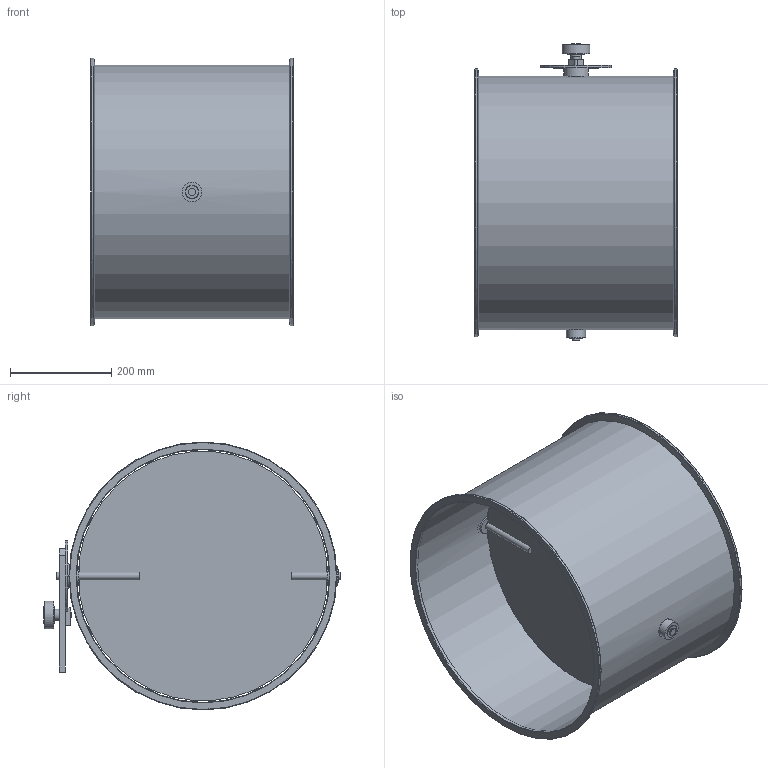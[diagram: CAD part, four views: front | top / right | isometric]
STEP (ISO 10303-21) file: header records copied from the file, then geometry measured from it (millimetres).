
FILE_DESCRIPTION(/* description */ (''),/* implementation_level */ '2;1');
FILE_NAME(/* name */ 'METU_Drosselklappe_Flansch_verzinkt_EA110-80B__500_L400_handbetaetigt.stp',/* time_stamp */ '2022-04-22T14:04:52+02:00',/* author */ (''),/* organization */ (''),/* preprocessor_version */ 'ST-DEVELOPER v11',/* originating_system */ 'SIEMENS UGS NX 6.0',/* authorisation */ '');
FILE_SCHEMA (('CONFIG_CONTROL_DESIGN'));
Length unit declared in the file: millimetre
Products named in the file (1): d.ga332Aq8vh
Bounding box: 400 x 587.34 x 530 mm (x, y, z)
Volume: 1487514.1 mm3; surface area: 1827779.9 mm2
Topology: 12 solids, 12 shells, 87 faces, 177 edges, 120 vertices
Faces by surface type: plane 41, cylinder 36, torus 6, cone 2, sphere 2
Full cylindrical faces by diameter (mm): 6 x6, 8.5 x1, 10 x1, 11 x1, 15 x5, 22 x1, 25 x3, 25.85 x2, 26 x2, 38 x3, 48 x1, 49 x1, 55 x1, 140 x1, 500 x1, 502 x1, 530 x2
Entity records: 2166 total; most frequent: CARTESIAN_POINT 382, DIRECTION 368, ORIENTED_EDGE 242, EDGE_LOOP 168, AXIS2_PLACEMENT_3D 163, FACE_BOUND 146, EDGE_CURVE 121, VERTEX_POINT 105
